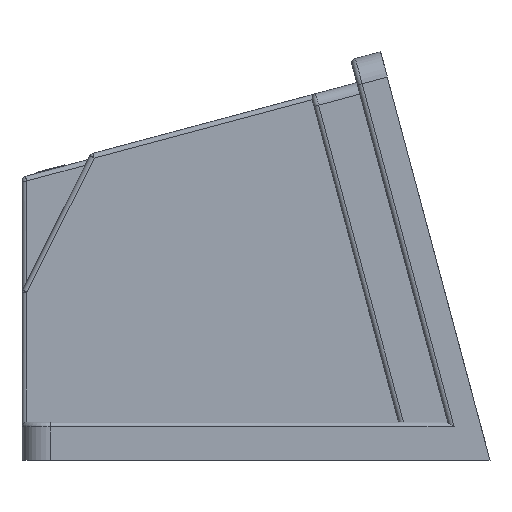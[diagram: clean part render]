
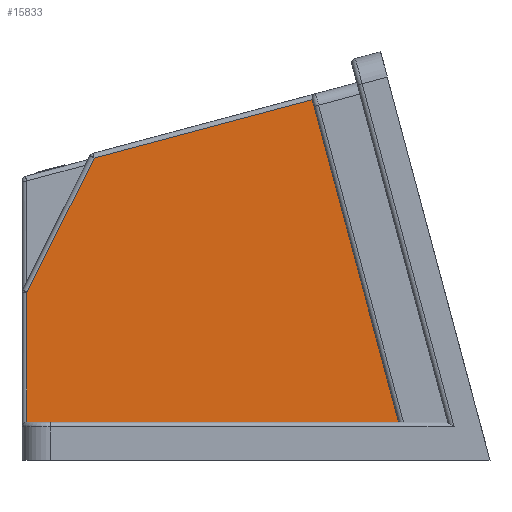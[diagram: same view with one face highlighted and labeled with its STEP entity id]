
A CAD part, left-side view. The second image highlights one B-rep face of the part: STEP entity #15833.
In plain terms, the highlighted planar face has unit normal (-1, 0, 0).
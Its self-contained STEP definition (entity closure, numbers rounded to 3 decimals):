
#2012 = VERTEX_POINT('',#2013);
#2013 = CARTESIAN_POINT('',(-28.5,-30.024,8.));
#2019 = EDGE_CURVE('',#2012,#2020,#2022,.T.);
#2020 = VERTEX_POINT('',#2021);
#2021 = CARTESIAN_POINT('',(-28.5,48.25,8.));
#2022 = LINE('',#2023,#2024);
#2023 = CARTESIAN_POINT('',(-28.5,-30.024,8.));
#2024 = VECTOR('',#2025,1.);
#2025 = DIRECTION('',(0.,1.,0.));
#2211 = EDGE_CURVE('',#2212,#2012,#2214,.T.);
#2212 = VERTEX_POINT('',#2213);
#2213 = CARTESIAN_POINT('',(-28.5,-11.83,75.901));
#2214 = LINE('',#2215,#2216);
#2215 = CARTESIAN_POINT('',(-28.5,-11.83,75.901));
#2216 = VECTOR('',#2217,1.);
#2217 = DIRECTION('',(0.,-0.259,-0.966));
#2712 = VERTEX_POINT('',#2713);
#2713 = CARTESIAN_POINT('',(-28.5,34.069,63.603));
#2735 = EDGE_CURVE('',#2212,#2712,#2736,.T.);
#2736 = LINE('',#2737,#2738);
#2737 = CARTESIAN_POINT('',(-28.5,-11.83,75.901));
#2738 = VECTOR('',#2739,1.);
#2739 = DIRECTION('',(0.,0.966,-0.259));
#15759 = EDGE_CURVE('',#2712,#15760,#15762,.T.);
#15760 = VERTEX_POINT('',#15761);
#15761 = CARTESIAN_POINT('',(-28.5,48.25,35.333));
#15762 = LINE('',#15763,#15764);
#15763 = CARTESIAN_POINT('',(-28.5,34.069,63.603));
#15764 = VECTOR('',#15765,1.);
#15765 = DIRECTION('',(0.,0.448,-0.894));
#15821 = EDGE_CURVE('',#15760,#2020,#15822,.T.);
#15822 = LINE('',#15823,#15824);
#15823 = CARTESIAN_POINT('',(-28.5,48.25,35.333));
#15824 = VECTOR('',#15825,1.);
#15825 = DIRECTION('',(0.,0.,-1.));
#15833 = ADVANCED_FACE('',(#15834),#15841,.F.);
#15834 = FACE_BOUND('',#15835,.T.);
#15835 = EDGE_LOOP('',(#15836,#15837,#15838,#15839,#15840));
#15836 = ORIENTED_EDGE('',*,*,#2019,.F.);
#15837 = ORIENTED_EDGE('',*,*,#2211,.F.);
#15838 = ORIENTED_EDGE('',*,*,#2735,.T.);
#15839 = ORIENTED_EDGE('',*,*,#15759,.T.);
#15840 = ORIENTED_EDGE('',*,*,#15821,.T.);
#15841 = PLANE('',#15842);
#15842 = AXIS2_PLACEMENT_3D('',#15843,#15844,#15845);
#15843 = CARTESIAN_POINT('',(-28.5,0.,0.));
#15844 = DIRECTION('',(1.,0.,0.));
#15845 = DIRECTION('',(0.,-1.,0.));
